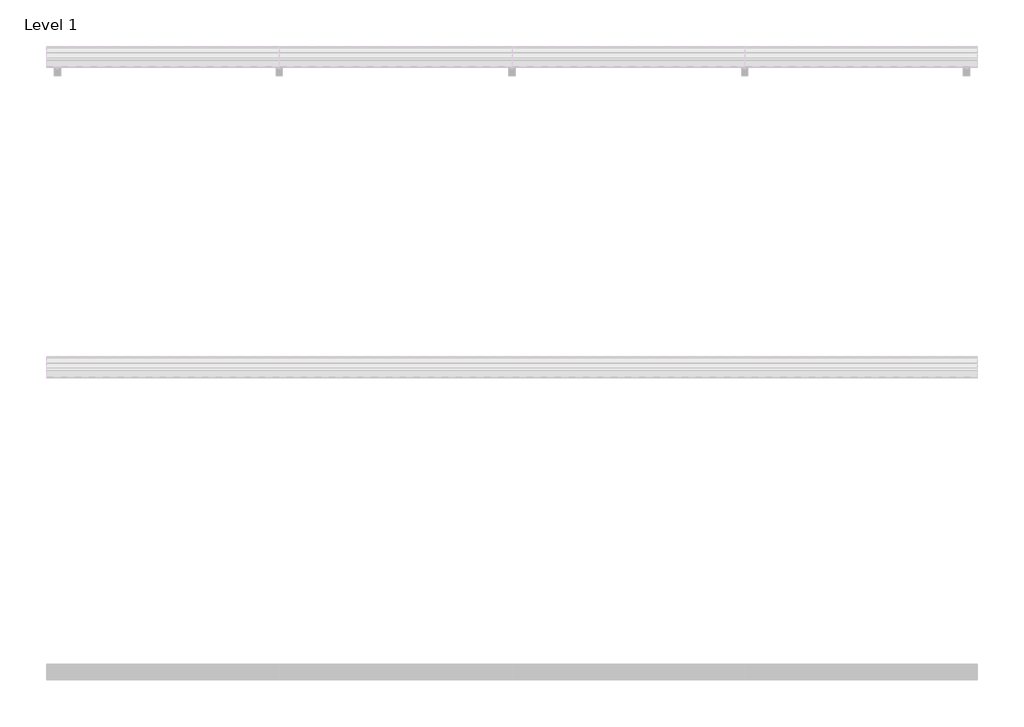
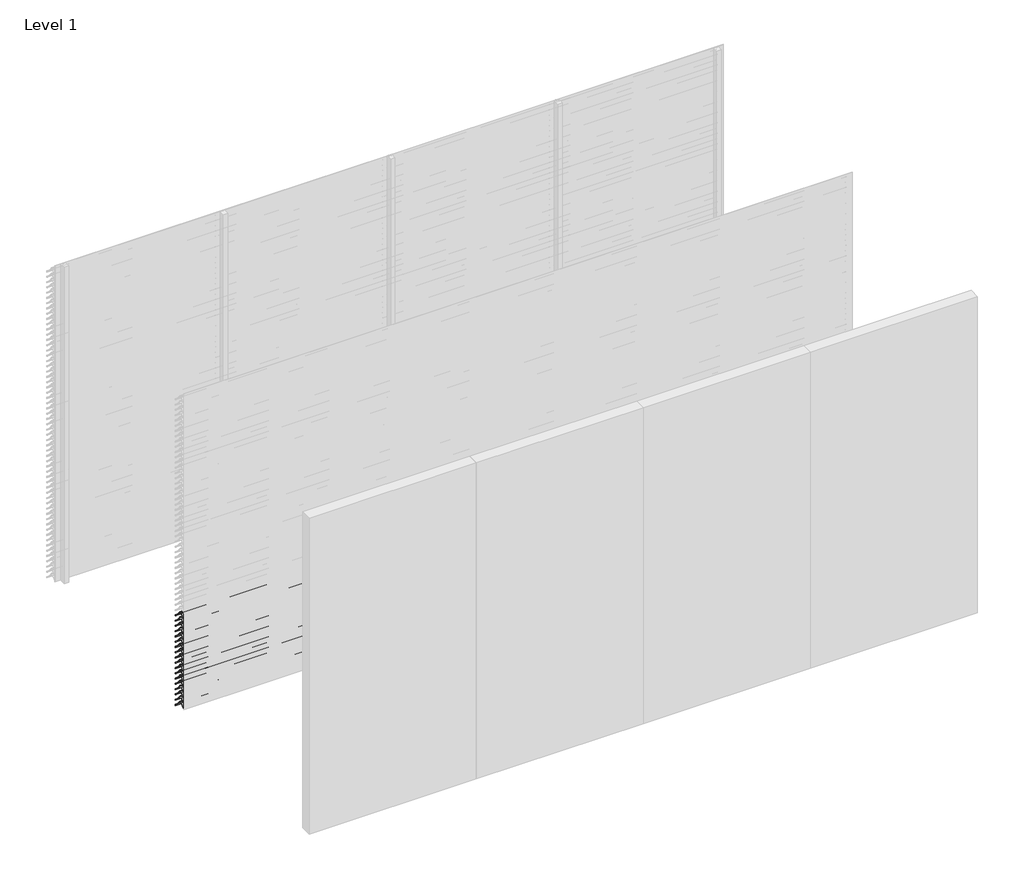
# One storey, part 74 of 173: 18 proxies.
"""IFC4 building model written with IfcOpenShell, lengths in millimetres."""

from ifc_helpers import new_model, si_unit, point, frame, frame_2d, origin, place, context, project, spatial, polyline, circle_curve, trimmed, segment, composite_curve, outline, extrude, element, save

model = new_model("IFC4")

# Units and contexts
model_context = context("Model", 3, world=origin())
ifc_project = project(units=[si_unit("LENGTHUNIT", "METRE", prefix="MILLI")], contexts=[model_context])

# Site, building, storey
site = spatial("IfcSite", under=ifc_project)
building = spatial("IfcBuilding", under=site)
storey = spatial("IfcBuildingStorey", under=building, Name="Level 1", Elevation=0.0)

# Proxies
placement = place(None, origin())
element("IfcBuildingElementProxy", 1, Name="Wall Sweeps", at=placement, inside=storey, context=model_context, shape_type="SweptSolid", body=[
    extrude(outline(composite_curve([segment(polyline([(-31998.0, 859.1474905), (-31998.0, 861.6227417)]), True, "CONTINUOUS"), segment(trimmed(circle_curve(frame_2d((-31951.2682172, 816.2200208)), 65.1557103), [point((-31998.0, 861.6227417))], [point((-31954.4014323, 881.3003524))], False, "CARTESIAN"), True, "CONTINUOUS"), segment(polyline([(-31954.4014323, 881.3003524), (-31934.8315836, 881.3003524)]), True, "CONTINUOUS"), segment(trimmed(circle_curve(frame_2d((-31732.7329489, 1028.5533172)), 250.0545817), [point((-31934.8315836, 881.3003524))], [point((-31941.4452143, 890.8344583))], False, "CARTESIAN"), True, "CONTINUOUS"), segment(trimmed(circle_curve(frame_2d((-31953.2981792, 885.1737835)), 13.1352966), [point((-31941.4452143, 890.8344583))], [point((-31953.8171475, 898.298824))], True, "CARTESIAN"), True, "CONTINUOUS"), segment(polyline([(-31953.8171475, 898.298824), (-31953.8171475, 900.0)]), True, "CONTINUOUS"), segment(trimmed(circle_curve(frame_2d((-31953.2981792, 885.1737835)), 14.8352966), [point((-31953.8171475, 900.0))], [point((-31939.9637661, 891.6760487))], False, "CARTESIAN"), True, "CONTINUOUS"), segment(trimmed(circle_curve(frame_2d((-31732.7329489, 1028.5533172)), 248.3545817), [point((-31939.9637661, 891.6760487))], [point((-31873.8787895, 824.2059416))], True, "CARTESIAN"), True, "CONTINUOUS"), segment(trimmed(circle_curve(frame_2d((-31883.8147537, 811.6649442)), 16.0), [point((-31873.8787895, 824.2059416))], [point((-31867.8648347, 810.4))], False, "CARTESIAN"), True, "CONTINUOUS"), segment(polyline([(-31867.8648347, 810.4), (-31869.6712069, 810.4)]), True, "CONTINUOUS"), segment(trimmed(circle_curve(frame_2d((-31883.8147537, 811.6649442)), 14.2), [point((-31869.6712069, 810.4))], [point((-31874.9518628, 822.7594998))], True, "CARTESIAN"), True, "CONTINUOUS"), segment(trimmed(circle_curve(frame_2d((-31732.7329489, 1028.5533172)), 250.1545817), [point((-31874.9518628, 822.7594998))], [point((-31933.7064024, 879.6003524))], False, "CARTESIAN"), True, "CONTINUOUS"), segment(polyline([(-31933.7064024, 879.6003524), (-31954.3602632, 879.6003524)]), True, "CONTINUOUS"), segment(trimmed(circle_curve(frame_2d((-31951.2682172, 816.2200208)), 63.4557103), [point((-31954.3602632, 879.6003524))], [point((-31998.0, 859.1474905))], True, "CARTESIAN"), True, "CONTINUOUS")], self_intersect=False)), frame((0.0, 0.0, 0.0), z_axis=(1.0, 0.0, 0.0), x_axis=(0.0, 1.0, 0.0)), (0.0, 0.0, 1.0), 6000.0),
])
element("IfcBuildingElementProxy", 2, Name="Wall Sweeps", at=placement, inside=storey, context=model_context, shape_type="SweptSolid", body=[
    extrude(outline(composite_curve([segment(polyline([(-31998.0, 809.1474905), (-31998.0, 811.6227417)]), True, "CONTINUOUS"), segment(trimmed(circle_curve(frame_2d((-31951.2682172, 766.2200208)), 65.1557103), [point((-31998.0, 811.6227417))], [point((-31954.4014323, 831.3003524))], False, "CARTESIAN"), True, "CONTINUOUS"), segment(polyline([(-31954.4014323, 831.3003524), (-31934.8315836, 831.3003524)]), True, "CONTINUOUS"), segment(trimmed(circle_curve(frame_2d((-31732.7329489, 978.5533172)), 250.0545817), [point((-31934.8315836, 831.3003524))], [point((-31941.4452143, 840.8344583))], False, "CARTESIAN"), True, "CONTINUOUS"), segment(trimmed(circle_curve(frame_2d((-31953.2981792, 835.1737835)), 13.1352966), [point((-31941.4452143, 840.8344583))], [point((-31953.8171475, 848.298824))], True, "CARTESIAN"), True, "CONTINUOUS"), segment(polyline([(-31953.8171475, 848.298824), (-31953.8171475, 850.0)]), True, "CONTINUOUS"), segment(trimmed(circle_curve(frame_2d((-31953.2981792, 835.1737835)), 14.8352966), [point((-31953.8171475, 850.0))], [point((-31939.9637661, 841.6760487))], False, "CARTESIAN"), True, "CONTINUOUS"), segment(trimmed(circle_curve(frame_2d((-31732.7329489, 978.5533172)), 248.3545817), [point((-31939.9637661, 841.6760487))], [point((-31873.8787895, 774.2059416))], True, "CARTESIAN"), True, "CONTINUOUS"), segment(trimmed(circle_curve(frame_2d((-31883.8147537, 761.6649442)), 16.0), [point((-31873.8787895, 774.2059416))], [point((-31867.8648347, 760.4))], False, "CARTESIAN"), True, "CONTINUOUS"), segment(polyline([(-31867.8648347, 760.4), (-31869.6712069, 760.4)]), True, "CONTINUOUS"), segment(trimmed(circle_curve(frame_2d((-31883.8147537, 761.6649442)), 14.2), [point((-31869.6712069, 760.4))], [point((-31874.9518628, 772.7594998))], True, "CARTESIAN"), True, "CONTINUOUS"), segment(trimmed(circle_curve(frame_2d((-31732.7329489, 978.5533172)), 250.1545817), [point((-31874.9518628, 772.7594998))], [point((-31933.7064024, 829.6003524))], False, "CARTESIAN"), True, "CONTINUOUS"), segment(polyline([(-31933.7064024, 829.6003524), (-31954.3602632, 829.6003524)]), True, "CONTINUOUS"), segment(trimmed(circle_curve(frame_2d((-31951.2682172, 766.2200208)), 63.4557103), [point((-31954.3602632, 829.6003524))], [point((-31998.0, 809.1474905))], True, "CARTESIAN"), True, "CONTINUOUS")], self_intersect=False)), frame((0.0, 0.0, 0.0), z_axis=(1.0, 0.0, 0.0), x_axis=(0.0, 1.0, 0.0)), (0.0, 0.0, 1.0), 6000.0),
])
element("IfcBuildingElementProxy", 3, Name="Wall Sweeps", at=placement, inside=storey, context=model_context, shape_type="SweptSolid", body=[
    extrude(outline(composite_curve([segment(polyline([(-31998.0, 759.1474905), (-31998.0, 761.6227417)]), True, "CONTINUOUS"), segment(trimmed(circle_curve(frame_2d((-31951.2682172, 716.2200208)), 65.1557103), [point((-31998.0, 761.6227417))], [point((-31954.4014323, 781.3003524))], False, "CARTESIAN"), True, "CONTINUOUS"), segment(polyline([(-31954.4014323, 781.3003524), (-31934.8315836, 781.3003524)]), True, "CONTINUOUS"), segment(trimmed(circle_curve(frame_2d((-31732.7329489, 928.5533172)), 250.0545817), [point((-31934.8315836, 781.3003524))], [point((-31941.4452143, 790.8344583))], False, "CARTESIAN"), True, "CONTINUOUS"), segment(trimmed(circle_curve(frame_2d((-31953.2981792, 785.1737835)), 13.1352966), [point((-31941.4452143, 790.8344583))], [point((-31953.8171475, 798.298824))], True, "CARTESIAN"), True, "CONTINUOUS"), segment(polyline([(-31953.8171475, 798.298824), (-31953.8171475, 800.0)]), True, "CONTINUOUS"), segment(trimmed(circle_curve(frame_2d((-31953.2981792, 785.1737835)), 14.8352966), [point((-31953.8171475, 800.0))], [point((-31939.9637661, 791.6760487))], False, "CARTESIAN"), True, "CONTINUOUS"), segment(trimmed(circle_curve(frame_2d((-31732.7329489, 928.5533172)), 248.3545817), [point((-31939.9637661, 791.6760487))], [point((-31873.8787895, 724.2059416))], True, "CARTESIAN"), True, "CONTINUOUS"), segment(trimmed(circle_curve(frame_2d((-31883.8147537, 711.6649442)), 16.0), [point((-31873.8787895, 724.2059416))], [point((-31867.8648347, 710.4))], False, "CARTESIAN"), True, "CONTINUOUS"), segment(polyline([(-31867.8648347, 710.4), (-31869.6712069, 710.4)]), True, "CONTINUOUS"), segment(trimmed(circle_curve(frame_2d((-31883.8147537, 711.6649442)), 14.2), [point((-31869.6712069, 710.4))], [point((-31874.9518628, 722.7594998))], True, "CARTESIAN"), True, "CONTINUOUS"), segment(trimmed(circle_curve(frame_2d((-31732.7329489, 928.5533172)), 250.1545817), [point((-31874.9518628, 722.7594998))], [point((-31933.7064024, 779.6003524))], False, "CARTESIAN"), True, "CONTINUOUS"), segment(polyline([(-31933.7064024, 779.6003524), (-31954.3602632, 779.6003524)]), True, "CONTINUOUS"), segment(trimmed(circle_curve(frame_2d((-31951.2682172, 716.2200208)), 63.4557103), [point((-31954.3602632, 779.6003524))], [point((-31998.0, 759.1474905))], True, "CARTESIAN"), True, "CONTINUOUS")], self_intersect=False)), frame((0.0, 0.0, 0.0), z_axis=(1.0, 0.0, 0.0), x_axis=(0.0, 1.0, 0.0)), (0.0, 0.0, 1.0), 6000.0),
])
element("IfcBuildingElementProxy", 4, Name="Wall Sweeps", at=placement, inside=storey, context=model_context, shape_type="SweptSolid", body=[
    extrude(outline(composite_curve([segment(polyline([(-31998.0, 709.1474905), (-31998.0, 711.6227417)]), True, "CONTINUOUS"), segment(trimmed(circle_curve(frame_2d((-31951.2682172, 666.2200208)), 65.1557103), [point((-31998.0, 711.6227417))], [point((-31954.4014323, 731.3003524))], False, "CARTESIAN"), True, "CONTINUOUS"), segment(polyline([(-31954.4014323, 731.3003524), (-31934.8315836, 731.3003524)]), True, "CONTINUOUS"), segment(trimmed(circle_curve(frame_2d((-31732.7329489, 878.5533172)), 250.0545817), [point((-31934.8315836, 731.3003524))], [point((-31941.4452143, 740.8344583))], False, "CARTESIAN"), True, "CONTINUOUS"), segment(trimmed(circle_curve(frame_2d((-31953.2981792, 735.1737835)), 13.1352966), [point((-31941.4452143, 740.8344583))], [point((-31953.8171475, 748.298824))], True, "CARTESIAN"), True, "CONTINUOUS"), segment(polyline([(-31953.8171475, 748.298824), (-31953.8171475, 750.0)]), True, "CONTINUOUS"), segment(trimmed(circle_curve(frame_2d((-31953.2981792, 735.1737835)), 14.8352966), [point((-31953.8171475, 750.0))], [point((-31939.9637661, 741.6760487))], False, "CARTESIAN"), True, "CONTINUOUS"), segment(trimmed(circle_curve(frame_2d((-31732.7329489, 878.5533172)), 248.3545817), [point((-31939.9637661, 741.6760487))], [point((-31873.8787895, 674.2059416))], True, "CARTESIAN"), True, "CONTINUOUS"), segment(trimmed(circle_curve(frame_2d((-31883.8147537, 661.6649442)), 16.0), [point((-31873.8787895, 674.2059416))], [point((-31867.8648347, 660.4))], False, "CARTESIAN"), True, "CONTINUOUS"), segment(polyline([(-31867.8648347, 660.4), (-31869.6712069, 660.4)]), True, "CONTINUOUS"), segment(trimmed(circle_curve(frame_2d((-31883.8147537, 661.6649442)), 14.2), [point((-31869.6712069, 660.4))], [point((-31874.9518628, 672.7594998))], True, "CARTESIAN"), True, "CONTINUOUS"), segment(trimmed(circle_curve(frame_2d((-31732.7329489, 878.5533172)), 250.1545817), [point((-31874.9518628, 672.7594998))], [point((-31933.7064024, 729.6003524))], False, "CARTESIAN"), True, "CONTINUOUS"), segment(polyline([(-31933.7064024, 729.6003524), (-31954.3602632, 729.6003524)]), True, "CONTINUOUS"), segment(trimmed(circle_curve(frame_2d((-31951.2682172, 666.2200208)), 63.4557103), [point((-31954.3602632, 729.6003524))], [point((-31998.0, 709.1474905))], True, "CARTESIAN"), True, "CONTINUOUS")], self_intersect=False)), frame((0.0, 0.0, 0.0), z_axis=(1.0, 0.0, 0.0), x_axis=(0.0, 1.0, 0.0)), (0.0, 0.0, 1.0), 6000.0),
])
element("IfcBuildingElementProxy", 5, Name="Wall Sweeps", at=placement, inside=storey, context=model_context, shape_type="SweptSolid", body=[
    extrude(outline(composite_curve([segment(polyline([(-31998.0, 659.1474905), (-31998.0, 661.6227417)]), True, "CONTINUOUS"), segment(trimmed(circle_curve(frame_2d((-31951.2682172, 616.2200208)), 65.1557103), [point((-31998.0, 661.6227417))], [point((-31954.4014323, 681.3003524))], False, "CARTESIAN"), True, "CONTINUOUS"), segment(polyline([(-31954.4014323, 681.3003524), (-31934.8315836, 681.3003524)]), True, "CONTINUOUS"), segment(trimmed(circle_curve(frame_2d((-31732.7329489, 828.5533172)), 250.0545817), [point((-31934.8315836, 681.3003524))], [point((-31941.4452143, 690.8344583))], False, "CARTESIAN"), True, "CONTINUOUS"), segment(trimmed(circle_curve(frame_2d((-31953.2981792, 685.1737835)), 13.1352966), [point((-31941.4452143, 690.8344583))], [point((-31953.8171475, 698.298824))], True, "CARTESIAN"), True, "CONTINUOUS"), segment(polyline([(-31953.8171475, 698.298824), (-31953.8171475, 700.0)]), True, "CONTINUOUS"), segment(trimmed(circle_curve(frame_2d((-31953.2981792, 685.1737835)), 14.8352966), [point((-31953.8171475, 700.0))], [point((-31939.9637661, 691.6760487))], False, "CARTESIAN"), True, "CONTINUOUS"), segment(trimmed(circle_curve(frame_2d((-31732.7329489, 828.5533172)), 248.3545817), [point((-31939.9637661, 691.6760487))], [point((-31873.8787895, 624.2059416))], True, "CARTESIAN"), True, "CONTINUOUS"), segment(trimmed(circle_curve(frame_2d((-31883.8147537, 611.6649442)), 16.0), [point((-31873.8787895, 624.2059416))], [point((-31867.8648347, 610.4))], False, "CARTESIAN"), True, "CONTINUOUS"), segment(polyline([(-31867.8648347, 610.4), (-31869.6712069, 610.4)]), True, "CONTINUOUS"), segment(trimmed(circle_curve(frame_2d((-31883.8147537, 611.6649442)), 14.2), [point((-31869.6712069, 610.4))], [point((-31874.9518628, 622.7594998))], True, "CARTESIAN"), True, "CONTINUOUS"), segment(trimmed(circle_curve(frame_2d((-31732.7329489, 828.5533172)), 250.1545817), [point((-31874.9518628, 622.7594998))], [point((-31933.7064024, 679.6003524))], False, "CARTESIAN"), True, "CONTINUOUS"), segment(polyline([(-31933.7064024, 679.6003524), (-31954.3602632, 679.6003524)]), True, "CONTINUOUS"), segment(trimmed(circle_curve(frame_2d((-31951.2682172, 616.2200208)), 63.4557103), [point((-31954.3602632, 679.6003524))], [point((-31998.0, 659.1474905))], True, "CARTESIAN"), True, "CONTINUOUS")], self_intersect=False)), frame((0.0, 0.0, 0.0), z_axis=(1.0, 0.0, 0.0), x_axis=(0.0, 1.0, 0.0)), (0.0, 0.0, 1.0), 6000.0),
])
element("IfcBuildingElementProxy", 6, Name="Wall Sweeps", at=placement, inside=storey, context=model_context, shape_type="SweptSolid", body=[
    extrude(outline(composite_curve([segment(polyline([(-31998.0, 609.1474905), (-31998.0, 611.6227417)]), True, "CONTINUOUS"), segment(trimmed(circle_curve(frame_2d((-31951.2682172, 566.2200208)), 65.1557103), [point((-31998.0, 611.6227417))], [point((-31954.4014323, 631.3003524))], False, "CARTESIAN"), True, "CONTINUOUS"), segment(polyline([(-31954.4014323, 631.3003524), (-31934.8315836, 631.3003524)]), True, "CONTINUOUS"), segment(trimmed(circle_curve(frame_2d((-31732.7329489, 778.5533172)), 250.0545817), [point((-31934.8315836, 631.3003524))], [point((-31941.4452143, 640.8344583))], False, "CARTESIAN"), True, "CONTINUOUS"), segment(trimmed(circle_curve(frame_2d((-31953.2981792, 635.1737835)), 13.1352966), [point((-31941.4452143, 640.8344583))], [point((-31953.8171475, 648.298824))], True, "CARTESIAN"), True, "CONTINUOUS"), segment(polyline([(-31953.8171475, 648.298824), (-31953.8171475, 650.0)]), True, "CONTINUOUS"), segment(trimmed(circle_curve(frame_2d((-31953.2981792, 635.1737835)), 14.8352966), [point((-31953.8171475, 650.0))], [point((-31939.9637661, 641.6760487))], False, "CARTESIAN"), True, "CONTINUOUS"), segment(trimmed(circle_curve(frame_2d((-31732.7329489, 778.5533172)), 248.3545817), [point((-31939.9637661, 641.6760487))], [point((-31873.8787895, 574.2059416))], True, "CARTESIAN"), True, "CONTINUOUS"), segment(trimmed(circle_curve(frame_2d((-31883.8147537, 561.6649442)), 16.0), [point((-31873.8787895, 574.2059416))], [point((-31867.8648347, 560.4))], False, "CARTESIAN"), True, "CONTINUOUS"), segment(polyline([(-31867.8648347, 560.4), (-31869.6712069, 560.4)]), True, "CONTINUOUS"), segment(trimmed(circle_curve(frame_2d((-31883.8147537, 561.6649442)), 14.2), [point((-31869.6712069, 560.4))], [point((-31874.9518628, 572.7594998))], True, "CARTESIAN"), True, "CONTINUOUS"), segment(trimmed(circle_curve(frame_2d((-31732.7329489, 778.5533172)), 250.1545817), [point((-31874.9518628, 572.7594998))], [point((-31933.7064024, 629.6003524))], False, "CARTESIAN"), True, "CONTINUOUS"), segment(polyline([(-31933.7064024, 629.6003524), (-31954.3602632, 629.6003524)]), True, "CONTINUOUS"), segment(trimmed(circle_curve(frame_2d((-31951.2682172, 566.2200208)), 63.4557103), [point((-31954.3602632, 629.6003524))], [point((-31998.0, 609.1474905))], True, "CARTESIAN"), True, "CONTINUOUS")], self_intersect=False)), frame((0.0, 0.0, 0.0), z_axis=(1.0, 0.0, 0.0), x_axis=(0.0, 1.0, 0.0)), (0.0, 0.0, 1.0), 6000.0),
])
element("IfcBuildingElementProxy", 7, Name="Wall Sweeps", at=placement, inside=storey, context=model_context, shape_type="SweptSolid", body=[
    extrude(outline(composite_curve([segment(polyline([(-31998.0, 559.1474905), (-31998.0, 561.6227417)]), True, "CONTINUOUS"), segment(trimmed(circle_curve(frame_2d((-31951.2682172, 516.2200208)), 65.1557103), [point((-31998.0, 561.6227417))], [point((-31954.4014323, 581.3003524))], False, "CARTESIAN"), True, "CONTINUOUS"), segment(polyline([(-31954.4014323, 581.3003524), (-31934.8315836, 581.3003524)]), True, "CONTINUOUS"), segment(trimmed(circle_curve(frame_2d((-31732.7329489, 728.5533172)), 250.0545817), [point((-31934.8315836, 581.3003524))], [point((-31941.4452143, 590.8344583))], False, "CARTESIAN"), True, "CONTINUOUS"), segment(trimmed(circle_curve(frame_2d((-31953.2981792, 585.1737835)), 13.1352966), [point((-31941.4452143, 590.8344583))], [point((-31953.8171475, 598.298824))], True, "CARTESIAN"), True, "CONTINUOUS"), segment(polyline([(-31953.8171475, 598.298824), (-31953.8171475, 600.0)]), True, "CONTINUOUS"), segment(trimmed(circle_curve(frame_2d((-31953.2981792, 585.1737835)), 14.8352966), [point((-31953.8171475, 600.0))], [point((-31939.9637661, 591.6760487))], False, "CARTESIAN"), True, "CONTINUOUS"), segment(trimmed(circle_curve(frame_2d((-31732.7329489, 728.5533172)), 248.3545817), [point((-31939.9637661, 591.6760487))], [point((-31873.8787895, 524.2059416))], True, "CARTESIAN"), True, "CONTINUOUS"), segment(trimmed(circle_curve(frame_2d((-31883.8147537, 511.6649442)), 16.0), [point((-31873.8787895, 524.2059416))], [point((-31867.8648347, 510.4))], False, "CARTESIAN"), True, "CONTINUOUS"), segment(polyline([(-31867.8648347, 510.4), (-31869.6712069, 510.4)]), True, "CONTINUOUS"), segment(trimmed(circle_curve(frame_2d((-31883.8147537, 511.6649442)), 14.2), [point((-31869.6712069, 510.4))], [point((-31874.9518628, 522.7594998))], True, "CARTESIAN"), True, "CONTINUOUS"), segment(trimmed(circle_curve(frame_2d((-31732.7329489, 728.5533172)), 250.1545817), [point((-31874.9518628, 522.7594998))], [point((-31933.7064024, 579.6003524))], False, "CARTESIAN"), True, "CONTINUOUS"), segment(polyline([(-31933.7064024, 579.6003524), (-31954.3602632, 579.6003524)]), True, "CONTINUOUS"), segment(trimmed(circle_curve(frame_2d((-31951.2682172, 516.2200208)), 63.4557103), [point((-31954.3602632, 579.6003524))], [point((-31998.0, 559.1474905))], True, "CARTESIAN"), True, "CONTINUOUS")], self_intersect=False)), frame((0.0, 0.0, 0.0), z_axis=(1.0, 0.0, 0.0), x_axis=(0.0, 1.0, 0.0)), (0.0, 0.0, 1.0), 6000.0),
])
element("IfcBuildingElementProxy", 8, Name="Wall Sweeps", at=placement, inside=storey, context=model_context, shape_type="SweptSolid", body=[
    extrude(outline(composite_curve([segment(polyline([(-31998.0, 509.1474905), (-31998.0, 511.6227417)]), True, "CONTINUOUS"), segment(trimmed(circle_curve(frame_2d((-31951.2682172, 466.2200208)), 65.1557103), [point((-31998.0, 511.6227417))], [point((-31954.4014323, 531.3003524))], False, "CARTESIAN"), True, "CONTINUOUS"), segment(polyline([(-31954.4014323, 531.3003524), (-31934.8315836, 531.3003524)]), True, "CONTINUOUS"), segment(trimmed(circle_curve(frame_2d((-31732.7329489, 678.5533172)), 250.0545817), [point((-31934.8315836, 531.3003524))], [point((-31941.4452143, 540.8344583))], False, "CARTESIAN"), True, "CONTINUOUS"), segment(trimmed(circle_curve(frame_2d((-31953.2981792, 535.1737835)), 13.1352966), [point((-31941.4452143, 540.8344583))], [point((-31953.8171475, 548.298824))], True, "CARTESIAN"), True, "CONTINUOUS"), segment(polyline([(-31953.8171475, 548.298824), (-31953.8171475, 550.0)]), True, "CONTINUOUS"), segment(trimmed(circle_curve(frame_2d((-31953.2981792, 535.1737835)), 14.8352966), [point((-31953.8171475, 550.0))], [point((-31939.9637661, 541.6760487))], False, "CARTESIAN"), True, "CONTINUOUS"), segment(trimmed(circle_curve(frame_2d((-31732.7329489, 678.5533172)), 248.3545817), [point((-31939.9637661, 541.6760487))], [point((-31873.8787895, 474.2059416))], True, "CARTESIAN"), True, "CONTINUOUS"), segment(trimmed(circle_curve(frame_2d((-31883.8147537, 461.6649442)), 16.0), [point((-31873.8787895, 474.2059416))], [point((-31867.8648347, 460.4))], False, "CARTESIAN"), True, "CONTINUOUS"), segment(polyline([(-31867.8648347, 460.4), (-31869.6712069, 460.4)]), True, "CONTINUOUS"), segment(trimmed(circle_curve(frame_2d((-31883.8147537, 461.6649442)), 14.2), [point((-31869.6712069, 460.4))], [point((-31874.9518628, 472.7594998))], True, "CARTESIAN"), True, "CONTINUOUS"), segment(trimmed(circle_curve(frame_2d((-31732.7329489, 678.5533172)), 250.1545817), [point((-31874.9518628, 472.7594998))], [point((-31933.7064024, 529.6003524))], False, "CARTESIAN"), True, "CONTINUOUS"), segment(polyline([(-31933.7064024, 529.6003524), (-31954.3602632, 529.6003524)]), True, "CONTINUOUS"), segment(trimmed(circle_curve(frame_2d((-31951.2682172, 466.2200208)), 63.4557103), [point((-31954.3602632, 529.6003524))], [point((-31998.0, 509.1474905))], True, "CARTESIAN"), True, "CONTINUOUS")], self_intersect=False)), frame((0.0, 0.0, 0.0), z_axis=(1.0, 0.0, 0.0), x_axis=(0.0, 1.0, 0.0)), (0.0, 0.0, 1.0), 6000.0),
])
element("IfcBuildingElementProxy", 9, Name="Wall Sweeps", at=placement, inside=storey, context=model_context, shape_type="SweptSolid", body=[
    extrude(outline(composite_curve([segment(polyline([(-31998.0, 459.1474905), (-31998.0, 461.6227417)]), True, "CONTINUOUS"), segment(trimmed(circle_curve(frame_2d((-31951.2682172, 416.2200208)), 65.1557103), [point((-31998.0, 461.6227417))], [point((-31954.4014323, 481.3003524))], False, "CARTESIAN"), True, "CONTINUOUS"), segment(polyline([(-31954.4014323, 481.3003524), (-31934.8315836, 481.3003524)]), True, "CONTINUOUS"), segment(trimmed(circle_curve(frame_2d((-31732.7329489, 628.5533172)), 250.0545817), [point((-31934.8315836, 481.3003524))], [point((-31941.4452143, 490.8344583))], False, "CARTESIAN"), True, "CONTINUOUS"), segment(trimmed(circle_curve(frame_2d((-31953.2981792, 485.1737835)), 13.1352966), [point((-31941.4452143, 490.8344583))], [point((-31953.8171475, 498.298824))], True, "CARTESIAN"), True, "CONTINUOUS"), segment(polyline([(-31953.8171475, 498.298824), (-31953.8171475, 500.0)]), True, "CONTINUOUS"), segment(trimmed(circle_curve(frame_2d((-31953.2981792, 485.1737835)), 14.8352966), [point((-31953.8171475, 500.0))], [point((-31939.9637661, 491.6760487))], False, "CARTESIAN"), True, "CONTINUOUS"), segment(trimmed(circle_curve(frame_2d((-31732.7329489, 628.5533172)), 248.3545817), [point((-31939.9637661, 491.6760487))], [point((-31873.8787895, 424.2059416))], True, "CARTESIAN"), True, "CONTINUOUS"), segment(trimmed(circle_curve(frame_2d((-31883.8147537, 411.6649442)), 16.0), [point((-31873.8787895, 424.2059416))], [point((-31867.8648347, 410.4))], False, "CARTESIAN"), True, "CONTINUOUS"), segment(polyline([(-31867.8648347, 410.4), (-31869.6712069, 410.4)]), True, "CONTINUOUS"), segment(trimmed(circle_curve(frame_2d((-31883.8147537, 411.6649442)), 14.2), [point((-31869.6712069, 410.4))], [point((-31874.9518628, 422.7594998))], True, "CARTESIAN"), True, "CONTINUOUS"), segment(trimmed(circle_curve(frame_2d((-31732.7329489, 628.5533172)), 250.1545817), [point((-31874.9518628, 422.7594998))], [point((-31933.7064024, 479.6003524))], False, "CARTESIAN"), True, "CONTINUOUS"), segment(polyline([(-31933.7064024, 479.6003524), (-31954.3602632, 479.6003524)]), True, "CONTINUOUS"), segment(trimmed(circle_curve(frame_2d((-31951.2682172, 416.2200208)), 63.4557103), [point((-31954.3602632, 479.6003524))], [point((-31998.0, 459.1474905))], True, "CARTESIAN"), True, "CONTINUOUS")], self_intersect=False)), frame((0.0, 0.0, 0.0), z_axis=(1.0, 0.0, 0.0), x_axis=(0.0, 1.0, 0.0)), (0.0, 0.0, 1.0), 6000.0),
])
element("IfcBuildingElementProxy", 10, Name="Wall Sweeps", at=placement, inside=storey, context=model_context, shape_type="SweptSolid", body=[
    extrude(outline(composite_curve([segment(polyline([(-31998.0, 409.1474905), (-31998.0, 411.6227417)]), True, "CONTINUOUS"), segment(trimmed(circle_curve(frame_2d((-31951.2682172, 366.2200208)), 65.1557103), [point((-31998.0, 411.6227417))], [point((-31954.4014323, 431.3003524))], False, "CARTESIAN"), True, "CONTINUOUS"), segment(polyline([(-31954.4014323, 431.3003524), (-31934.8315836, 431.3003524)]), True, "CONTINUOUS"), segment(trimmed(circle_curve(frame_2d((-31732.7329489, 578.5533172)), 250.0545817), [point((-31934.8315836, 431.3003524))], [point((-31941.4452143, 440.8344583))], False, "CARTESIAN"), True, "CONTINUOUS"), segment(trimmed(circle_curve(frame_2d((-31953.2981792, 435.1737835)), 13.1352966), [point((-31941.4452143, 440.8344583))], [point((-31953.8171475, 448.298824))], True, "CARTESIAN"), True, "CONTINUOUS"), segment(polyline([(-31953.8171475, 448.298824), (-31953.8171475, 450.0)]), True, "CONTINUOUS"), segment(trimmed(circle_curve(frame_2d((-31953.2981792, 435.1737835)), 14.8352966), [point((-31953.8171475, 450.0))], [point((-31939.9637661, 441.6760487))], False, "CARTESIAN"), True, "CONTINUOUS"), segment(trimmed(circle_curve(frame_2d((-31732.7329489, 578.5533172)), 248.3545817), [point((-31939.9637661, 441.6760487))], [point((-31873.8787895, 374.2059416))], True, "CARTESIAN"), True, "CONTINUOUS"), segment(trimmed(circle_curve(frame_2d((-31883.8147537, 361.6649442)), 16.0), [point((-31873.8787895, 374.2059416))], [point((-31867.8648347, 360.4))], False, "CARTESIAN"), True, "CONTINUOUS"), segment(polyline([(-31867.8648347, 360.4), (-31869.6712069, 360.4)]), True, "CONTINUOUS"), segment(trimmed(circle_curve(frame_2d((-31883.8147537, 361.6649442)), 14.2), [point((-31869.6712069, 360.4))], [point((-31874.9518628, 372.7594998))], True, "CARTESIAN"), True, "CONTINUOUS"), segment(trimmed(circle_curve(frame_2d((-31732.7329489, 578.5533172)), 250.1545817), [point((-31874.9518628, 372.7594998))], [point((-31933.7064024, 429.6003524))], False, "CARTESIAN"), True, "CONTINUOUS"), segment(polyline([(-31933.7064024, 429.6003524), (-31954.3602632, 429.6003524)]), True, "CONTINUOUS"), segment(trimmed(circle_curve(frame_2d((-31951.2682172, 366.2200208)), 63.4557103), [point((-31954.3602632, 429.6003524))], [point((-31998.0, 409.1474905))], True, "CARTESIAN"), True, "CONTINUOUS")], self_intersect=False)), frame((0.0, 0.0, 0.0), z_axis=(1.0, 0.0, 0.0), x_axis=(0.0, 1.0, 0.0)), (0.0, 0.0, 1.0), 6000.0),
])
element("IfcBuildingElementProxy", 11, Name="Wall Sweeps", at=placement, inside=storey, context=model_context, shape_type="SweptSolid", body=[
    extrude(outline(composite_curve([segment(polyline([(-31998.0, 359.1474905), (-31998.0, 361.6227417)]), True, "CONTINUOUS"), segment(trimmed(circle_curve(frame_2d((-31951.2682172, 316.2200208)), 65.1557103), [point((-31998.0, 361.6227417))], [point((-31954.4014323, 381.3003524))], False, "CARTESIAN"), True, "CONTINUOUS"), segment(polyline([(-31954.4014323, 381.3003524), (-31934.8315836, 381.3003524)]), True, "CONTINUOUS"), segment(trimmed(circle_curve(frame_2d((-31732.7329489, 528.5533172)), 250.0545817), [point((-31934.8315836, 381.3003524))], [point((-31941.4452143, 390.8344583))], False, "CARTESIAN"), True, "CONTINUOUS"), segment(trimmed(circle_curve(frame_2d((-31953.2981792, 385.1737835)), 13.1352966), [point((-31941.4452143, 390.8344583))], [point((-31953.8171475, 398.298824))], True, "CARTESIAN"), True, "CONTINUOUS"), segment(polyline([(-31953.8171475, 398.298824), (-31953.8171475, 400.0)]), True, "CONTINUOUS"), segment(trimmed(circle_curve(frame_2d((-31953.2981792, 385.1737835)), 14.8352966), [point((-31953.8171475, 400.0))], [point((-31939.9637661, 391.6760487))], False, "CARTESIAN"), True, "CONTINUOUS"), segment(trimmed(circle_curve(frame_2d((-31732.7329489, 528.5533172)), 248.3545817), [point((-31939.9637661, 391.6760487))], [point((-31873.8787895, 324.2059416))], True, "CARTESIAN"), True, "CONTINUOUS"), segment(trimmed(circle_curve(frame_2d((-31883.8147537, 311.6649442)), 16.0), [point((-31873.8787895, 324.2059416))], [point((-31867.8648347, 310.4))], False, "CARTESIAN"), True, "CONTINUOUS"), segment(polyline([(-31867.8648347, 310.4), (-31869.6712069, 310.4)]), True, "CONTINUOUS"), segment(trimmed(circle_curve(frame_2d((-31883.8147537, 311.6649442)), 14.2), [point((-31869.6712069, 310.4))], [point((-31874.9518628, 322.7594998))], True, "CARTESIAN"), True, "CONTINUOUS"), segment(trimmed(circle_curve(frame_2d((-31732.7329489, 528.5533172)), 250.1545817), [point((-31874.9518628, 322.7594998))], [point((-31933.7064024, 379.6003524))], False, "CARTESIAN"), True, "CONTINUOUS"), segment(polyline([(-31933.7064024, 379.6003524), (-31954.3602632, 379.6003524)]), True, "CONTINUOUS"), segment(trimmed(circle_curve(frame_2d((-31951.2682172, 316.2200208)), 63.4557103), [point((-31954.3602632, 379.6003524))], [point((-31998.0, 359.1474905))], True, "CARTESIAN"), True, "CONTINUOUS")], self_intersect=False)), frame((0.0, 0.0, 0.0), z_axis=(1.0, 0.0, 0.0), x_axis=(0.0, 1.0, 0.0)), (0.0, 0.0, 1.0), 6000.0),
])
element("IfcBuildingElementProxy", 12, Name="Wall Sweeps", at=placement, inside=storey, context=model_context, shape_type="SweptSolid", body=[
    extrude(outline(composite_curve([segment(polyline([(-31998.0, 309.1474905), (-31998.0, 311.6227417)]), True, "CONTINUOUS"), segment(trimmed(circle_curve(frame_2d((-31951.2682172, 266.2200208)), 65.1557103), [point((-31998.0, 311.6227417))], [point((-31954.4014323, 331.3003524))], False, "CARTESIAN"), True, "CONTINUOUS"), segment(polyline([(-31954.4014323, 331.3003524), (-31934.8315836, 331.3003524)]), True, "CONTINUOUS"), segment(trimmed(circle_curve(frame_2d((-31732.7329489, 478.5533172)), 250.0545817), [point((-31934.8315836, 331.3003524))], [point((-31941.4452143, 340.8344583))], False, "CARTESIAN"), True, "CONTINUOUS"), segment(trimmed(circle_curve(frame_2d((-31953.2981792, 335.1737835)), 13.1352966), [point((-31941.4452143, 340.8344583))], [point((-31953.8171475, 348.298824))], True, "CARTESIAN"), True, "CONTINUOUS"), segment(polyline([(-31953.8171475, 348.298824), (-31953.8171475, 350.0)]), True, "CONTINUOUS"), segment(trimmed(circle_curve(frame_2d((-31953.2981792, 335.1737835)), 14.8352966), [point((-31953.8171475, 350.0))], [point((-31939.9637661, 341.6760487))], False, "CARTESIAN"), True, "CONTINUOUS"), segment(trimmed(circle_curve(frame_2d((-31732.7329489, 478.5533172)), 248.3545817), [point((-31939.9637661, 341.6760487))], [point((-31873.8787895, 274.2059416))], True, "CARTESIAN"), True, "CONTINUOUS"), segment(trimmed(circle_curve(frame_2d((-31883.8147537, 261.6649442)), 16.0), [point((-31873.8787895, 274.2059416))], [point((-31867.8648347, 260.4))], False, "CARTESIAN"), True, "CONTINUOUS"), segment(polyline([(-31867.8648347, 260.4), (-31869.6712069, 260.4)]), True, "CONTINUOUS"), segment(trimmed(circle_curve(frame_2d((-31883.8147537, 261.6649442)), 14.2), [point((-31869.6712069, 260.4))], [point((-31874.9518628, 272.7594998))], True, "CARTESIAN"), True, "CONTINUOUS"), segment(trimmed(circle_curve(frame_2d((-31732.7329489, 478.5533172)), 250.1545817), [point((-31874.9518628, 272.7594998))], [point((-31933.7064024, 329.6003524))], False, "CARTESIAN"), True, "CONTINUOUS"), segment(polyline([(-31933.7064024, 329.6003524), (-31954.3602632, 329.6003524)]), True, "CONTINUOUS"), segment(trimmed(circle_curve(frame_2d((-31951.2682172, 266.2200208)), 63.4557103), [point((-31954.3602632, 329.6003524))], [point((-31998.0, 309.1474905))], True, "CARTESIAN"), True, "CONTINUOUS")], self_intersect=False)), frame((0.0, 0.0, 0.0), z_axis=(1.0, 0.0, 0.0), x_axis=(0.0, 1.0, 0.0)), (0.0, 0.0, 1.0), 6000.0),
])
element("IfcBuildingElementProxy", 13, Name="Wall Sweeps", at=placement, inside=storey, context=model_context, shape_type="SweptSolid", body=[
    extrude(outline(composite_curve([segment(polyline([(-31998.0, 259.1474905), (-31998.0, 261.6227417)]), True, "CONTINUOUS"), segment(trimmed(circle_curve(frame_2d((-31951.2682172, 216.2200208)), 65.1557103), [point((-31998.0, 261.6227417))], [point((-31954.4014323, 281.3003524))], False, "CARTESIAN"), True, "CONTINUOUS"), segment(polyline([(-31954.4014323, 281.3003524), (-31934.8315836, 281.3003524)]), True, "CONTINUOUS"), segment(trimmed(circle_curve(frame_2d((-31732.7329489, 428.5533172)), 250.0545817), [point((-31934.8315836, 281.3003524))], [point((-31941.4452143, 290.8344583))], False, "CARTESIAN"), True, "CONTINUOUS"), segment(trimmed(circle_curve(frame_2d((-31953.2981792, 285.1737835)), 13.1352966), [point((-31941.4452143, 290.8344583))], [point((-31953.8171475, 298.298824))], True, "CARTESIAN"), True, "CONTINUOUS"), segment(polyline([(-31953.8171475, 298.298824), (-31953.8171475, 300.0)]), True, "CONTINUOUS"), segment(trimmed(circle_curve(frame_2d((-31953.2981792, 285.1737835)), 14.8352966), [point((-31953.8171475, 300.0))], [point((-31939.9637661, 291.6760487))], False, "CARTESIAN"), True, "CONTINUOUS"), segment(trimmed(circle_curve(frame_2d((-31732.7329489, 428.5533172)), 248.3545817), [point((-31939.9637661, 291.6760487))], [point((-31873.8787895, 224.2059416))], True, "CARTESIAN"), True, "CONTINUOUS"), segment(trimmed(circle_curve(frame_2d((-31883.8147537, 211.6649442)), 16.0), [point((-31873.8787895, 224.2059416))], [point((-31867.8648347, 210.4))], False, "CARTESIAN"), True, "CONTINUOUS"), segment(polyline([(-31867.8648347, 210.4), (-31869.6712069, 210.4)]), True, "CONTINUOUS"), segment(trimmed(circle_curve(frame_2d((-31883.8147537, 211.6649442)), 14.2), [point((-31869.6712069, 210.4))], [point((-31874.9518628, 222.7594998))], True, "CARTESIAN"), True, "CONTINUOUS"), segment(trimmed(circle_curve(frame_2d((-31732.7329489, 428.5533172)), 250.1545817), [point((-31874.9518628, 222.7594998))], [point((-31933.7064024, 279.6003524))], False, "CARTESIAN"), True, "CONTINUOUS"), segment(polyline([(-31933.7064024, 279.6003524), (-31954.3602632, 279.6003524)]), True, "CONTINUOUS"), segment(trimmed(circle_curve(frame_2d((-31951.2682172, 216.2200208)), 63.4557103), [point((-31954.3602632, 279.6003524))], [point((-31998.0, 259.1474905))], True, "CARTESIAN"), True, "CONTINUOUS")], self_intersect=False)), frame((0.0, 0.0, 0.0), z_axis=(1.0, 0.0, 0.0), x_axis=(0.0, 1.0, 0.0)), (0.0, 0.0, 1.0), 6000.0),
])
element("IfcBuildingElementProxy", 14, Name="Wall Sweeps", at=placement, inside=storey, context=model_context, shape_type="SweptSolid", body=[
    extrude(outline(composite_curve([segment(polyline([(-31998.0, 209.1474905), (-31998.0, 211.6227417)]), True, "CONTINUOUS"), segment(trimmed(circle_curve(frame_2d((-31951.2682172, 166.2200208)), 65.1557103), [point((-31998.0, 211.6227417))], [point((-31954.4014323, 231.3003524))], False, "CARTESIAN"), True, "CONTINUOUS"), segment(polyline([(-31954.4014323, 231.3003524), (-31934.8315836, 231.3003524)]), True, "CONTINUOUS"), segment(trimmed(circle_curve(frame_2d((-31732.7329489, 378.5533172)), 250.0545817), [point((-31934.8315836, 231.3003524))], [point((-31941.4452143, 240.8344583))], False, "CARTESIAN"), True, "CONTINUOUS"), segment(trimmed(circle_curve(frame_2d((-31953.2981792, 235.1737835)), 13.1352966), [point((-31941.4452143, 240.8344583))], [point((-31953.8171475, 248.298824))], True, "CARTESIAN"), True, "CONTINUOUS"), segment(polyline([(-31953.8171475, 248.298824), (-31953.8171475, 250.0)]), True, "CONTINUOUS"), segment(trimmed(circle_curve(frame_2d((-31953.2981792, 235.1737835)), 14.8352966), [point((-31953.8171475, 250.0))], [point((-31939.9637661, 241.6760487))], False, "CARTESIAN"), True, "CONTINUOUS"), segment(trimmed(circle_curve(frame_2d((-31732.7329489, 378.5533172)), 248.3545817), [point((-31939.9637661, 241.6760487))], [point((-31873.8787895, 174.2059416))], True, "CARTESIAN"), True, "CONTINUOUS"), segment(trimmed(circle_curve(frame_2d((-31883.8147537, 161.6649442)), 16.0), [point((-31873.8787895, 174.2059416))], [point((-31867.8648347, 160.4))], False, "CARTESIAN"), True, "CONTINUOUS"), segment(polyline([(-31867.8648347, 160.4), (-31869.6712069, 160.4)]), True, "CONTINUOUS"), segment(trimmed(circle_curve(frame_2d((-31883.8147537, 161.6649442)), 14.2), [point((-31869.6712069, 160.4))], [point((-31874.9518628, 172.7594998))], True, "CARTESIAN"), True, "CONTINUOUS"), segment(trimmed(circle_curve(frame_2d((-31732.7329489, 378.5533172)), 250.1545817), [point((-31874.9518628, 172.7594998))], [point((-31933.7064024, 229.6003524))], False, "CARTESIAN"), True, "CONTINUOUS"), segment(polyline([(-31933.7064024, 229.6003524), (-31954.3602632, 229.6003524)]), True, "CONTINUOUS"), segment(trimmed(circle_curve(frame_2d((-31951.2682172, 166.2200208)), 63.4557103), [point((-31954.3602632, 229.6003524))], [point((-31998.0, 209.1474905))], True, "CARTESIAN"), True, "CONTINUOUS")], self_intersect=False)), frame((0.0, 0.0, 0.0), z_axis=(1.0, 0.0, 0.0), x_axis=(0.0, 1.0, 0.0)), (0.0, 0.0, 1.0), 6000.0),
])
element("IfcBuildingElementProxy", 15, Name="Wall Sweeps", at=placement, inside=storey, context=model_context, shape_type="SweptSolid", body=[
    extrude(outline(composite_curve([segment(polyline([(-31998.0, 159.1474905), (-31998.0, 161.6227417)]), True, "CONTINUOUS"), segment(trimmed(circle_curve(frame_2d((-31951.2682172, 116.2200208)), 65.1557103), [point((-31998.0, 161.6227417))], [point((-31954.4014323, 181.3003524))], False, "CARTESIAN"), True, "CONTINUOUS"), segment(polyline([(-31954.4014323, 181.3003524), (-31934.8315836, 181.3003524)]), True, "CONTINUOUS"), segment(trimmed(circle_curve(frame_2d((-31732.7329489, 328.5533172)), 250.0545817), [point((-31934.8315836, 181.3003524))], [point((-31941.4452143, 190.8344583))], False, "CARTESIAN"), True, "CONTINUOUS"), segment(trimmed(circle_curve(frame_2d((-31953.2981792, 185.1737835)), 13.1352966), [point((-31941.4452143, 190.8344583))], [point((-31953.8171475, 198.298824))], True, "CARTESIAN"), True, "CONTINUOUS"), segment(polyline([(-31953.8171475, 198.298824), (-31953.8171475, 200.0)]), True, "CONTINUOUS"), segment(trimmed(circle_curve(frame_2d((-31953.2981792, 185.1737835)), 14.8352966), [point((-31953.8171475, 200.0))], [point((-31939.9637661, 191.6760487))], False, "CARTESIAN"), True, "CONTINUOUS"), segment(trimmed(circle_curve(frame_2d((-31732.7329489, 328.5533172)), 248.3545817), [point((-31939.9637661, 191.6760487))], [point((-31873.8787895, 124.2059416))], True, "CARTESIAN"), True, "CONTINUOUS"), segment(trimmed(circle_curve(frame_2d((-31883.8147537, 111.6649442)), 16.0), [point((-31873.8787895, 124.2059416))], [point((-31867.8648347, 110.4))], False, "CARTESIAN"), True, "CONTINUOUS"), segment(polyline([(-31867.8648347, 110.4), (-31869.6712069, 110.4)]), True, "CONTINUOUS"), segment(trimmed(circle_curve(frame_2d((-31883.8147537, 111.6649442)), 14.2), [point((-31869.6712069, 110.4))], [point((-31874.9518628, 122.7594998))], True, "CARTESIAN"), True, "CONTINUOUS"), segment(trimmed(circle_curve(frame_2d((-31732.7329489, 328.5533172)), 250.1545817), [point((-31874.9518628, 122.7594998))], [point((-31933.7064024, 179.6003524))], False, "CARTESIAN"), True, "CONTINUOUS"), segment(polyline([(-31933.7064024, 179.6003524), (-31954.3602632, 179.6003524)]), True, "CONTINUOUS"), segment(trimmed(circle_curve(frame_2d((-31951.2682172, 116.2200208)), 63.4557103), [point((-31954.3602632, 179.6003524))], [point((-31998.0, 159.1474905))], True, "CARTESIAN"), True, "CONTINUOUS")], self_intersect=False)), frame((0.0, 0.0, 0.0), z_axis=(1.0, 0.0, 0.0), x_axis=(0.0, 1.0, 0.0)), (0.0, 0.0, 1.0), 6000.0),
])
element("IfcBuildingElementProxy", 16, Name="Wall Sweeps", at=placement, inside=storey, context=model_context, shape_type="SweptSolid", body=[
    extrude(outline(composite_curve([segment(polyline([(-31998.0, 109.1474905), (-31998.0, 111.6227417)]), True, "CONTINUOUS"), segment(trimmed(circle_curve(frame_2d((-31951.2682172, 66.2200208)), 65.1557103), [point((-31998.0, 111.6227417))], [point((-31954.4014323, 131.3003524))], False, "CARTESIAN"), True, "CONTINUOUS"), segment(polyline([(-31954.4014323, 131.3003524), (-31934.8315836, 131.3003524)]), True, "CONTINUOUS"), segment(trimmed(circle_curve(frame_2d((-31732.7329489, 278.5533172)), 250.0545817), [point((-31934.8315836, 131.3003524))], [point((-31941.4452143, 140.8344583))], False, "CARTESIAN"), True, "CONTINUOUS"), segment(trimmed(circle_curve(frame_2d((-31953.2981792, 135.1737835)), 13.1352966), [point((-31941.4452143, 140.8344583))], [point((-31953.8171475, 148.298824))], True, "CARTESIAN"), True, "CONTINUOUS"), segment(polyline([(-31953.8171475, 148.298824), (-31953.8171475, 150.0)]), True, "CONTINUOUS"), segment(trimmed(circle_curve(frame_2d((-31953.2981792, 135.1737835)), 14.8352966), [point((-31953.8171475, 150.0))], [point((-31939.9637661, 141.6760487))], False, "CARTESIAN"), True, "CONTINUOUS"), segment(trimmed(circle_curve(frame_2d((-31732.7329489, 278.5533172)), 248.3545817), [point((-31939.9637661, 141.6760487))], [point((-31873.8787895, 74.2059416))], True, "CARTESIAN"), True, "CONTINUOUS"), segment(trimmed(circle_curve(frame_2d((-31883.8147537, 61.6649442)), 16.0), [point((-31873.8787895, 74.2059416))], [point((-31867.8648347, 60.4))], False, "CARTESIAN"), True, "CONTINUOUS"), segment(polyline([(-31867.8648347, 60.4), (-31869.6712069, 60.4)]), True, "CONTINUOUS"), segment(trimmed(circle_curve(frame_2d((-31883.8147537, 61.6649442)), 14.2), [point((-31869.6712069, 60.4))], [point((-31874.9518628, 72.7594998))], True, "CARTESIAN"), True, "CONTINUOUS"), segment(trimmed(circle_curve(frame_2d((-31732.7329489, 278.5533172)), 250.1545817), [point((-31874.9518628, 72.7594998))], [point((-31933.7064024, 129.6003524))], False, "CARTESIAN"), True, "CONTINUOUS"), segment(polyline([(-31933.7064024, 129.6003524), (-31954.3602632, 129.6003524)]), True, "CONTINUOUS"), segment(trimmed(circle_curve(frame_2d((-31951.2682172, 66.2200208)), 63.4557103), [point((-31954.3602632, 129.6003524))], [point((-31998.0, 109.1474905))], True, "CARTESIAN"), True, "CONTINUOUS")], self_intersect=False)), frame((0.0, 0.0, 0.0), z_axis=(1.0, 0.0, 0.0), x_axis=(0.0, 1.0, 0.0)), (0.0, 0.0, 1.0), 6000.0),
])
element("IfcBuildingElementProxy", 17, Name="Wall Sweeps", at=placement, inside=storey, context=model_context, shape_type="SweptSolid", body=[
    extrude(outline(composite_curve([segment(polyline([(-31998.0, 59.1474905), (-31998.0, 61.6227417)]), True, "CONTINUOUS"), segment(trimmed(circle_curve(frame_2d((-31951.2682172, 16.2200208)), 65.1557103), [point((-31998.0, 61.6227417))], [point((-31954.4014323, 81.3003524))], False, "CARTESIAN"), True, "CONTINUOUS"), segment(polyline([(-31954.4014323, 81.3003524), (-31934.8315836, 81.3003524)]), True, "CONTINUOUS"), segment(trimmed(circle_curve(frame_2d((-31732.7329489, 228.5533172)), 250.0545817), [point((-31934.8315836, 81.3003524))], [point((-31941.4452143, 90.8344583))], False, "CARTESIAN"), True, "CONTINUOUS"), segment(trimmed(circle_curve(frame_2d((-31953.2981792, 85.1737835)), 13.1352966), [point((-31941.4452143, 90.8344583))], [point((-31953.8171475, 98.298824))], True, "CARTESIAN"), True, "CONTINUOUS"), segment(polyline([(-31953.8171475, 98.298824), (-31953.8171475, 100.0)]), True, "CONTINUOUS"), segment(trimmed(circle_curve(frame_2d((-31953.2981792, 85.1737835)), 14.8352966), [point((-31953.8171475, 100.0))], [point((-31939.9637661, 91.6760487))], False, "CARTESIAN"), True, "CONTINUOUS"), segment(trimmed(circle_curve(frame_2d((-31732.7329489, 228.5533172)), 248.3545817), [point((-31939.9637661, 91.6760487))], [point((-31873.8787895, 24.2059416))], True, "CARTESIAN"), True, "CONTINUOUS"), segment(trimmed(circle_curve(frame_2d((-31883.8147537, 11.6649442)), 16.0), [point((-31873.8787895, 24.2059416))], [point((-31867.8648347, 10.4))], False, "CARTESIAN"), True, "CONTINUOUS"), segment(polyline([(-31867.8648347, 10.4), (-31869.6712069, 10.4)]), True, "CONTINUOUS"), segment(trimmed(circle_curve(frame_2d((-31883.8147537, 11.6649442)), 14.2), [point((-31869.6712069, 10.4))], [point((-31874.9518628, 22.7594998))], True, "CARTESIAN"), True, "CONTINUOUS"), segment(trimmed(circle_curve(frame_2d((-31732.7329489, 228.5533172)), 250.1545817), [point((-31874.9518628, 22.7594998))], [point((-31933.7064024, 79.6003524))], False, "CARTESIAN"), True, "CONTINUOUS"), segment(polyline([(-31933.7064024, 79.6003524), (-31954.3602632, 79.6003524)]), True, "CONTINUOUS"), segment(trimmed(circle_curve(frame_2d((-31951.2682172, 16.2200208)), 63.4557103), [point((-31954.3602632, 79.6003524))], [point((-31998.0, 59.1474905))], True, "CARTESIAN"), True, "CONTINUOUS")], self_intersect=False)), frame((0.0, 0.0, 0.0), z_axis=(1.0, 0.0, 0.0), x_axis=(0.0, 1.0, 0.0)), (0.0, 0.0, 1.0), 6000.0),
])
element("IfcBuildingElementProxy", 18, Name="Wall Sweeps", at=placement, inside=storey, context=model_context, shape_type="SweptSolid", body=[
    extrude(outline(composite_curve([segment(polyline([(-31998.0, 9.1474905), (-31998.0, 11.6227417)]), True, "CONTINUOUS"), segment(trimmed(circle_curve(frame_2d((-31951.2682172, -33.7799792)), 65.1557103), [point((-31998.0, 11.6227417))], [point((-31954.4014323, 31.3003524))], False, "CARTESIAN"), True, "CONTINUOUS"), segment(polyline([(-31954.4014323, 31.3003524), (-31934.8315836, 31.3003524)]), True, "CONTINUOUS"), segment(trimmed(circle_curve(frame_2d((-31732.7329489, 178.5533172)), 250.0545817), [point((-31934.8315836, 31.3003524))], [point((-31941.4452143, 40.8344583))], False, "CARTESIAN"), True, "CONTINUOUS"), segment(trimmed(circle_curve(frame_2d((-31953.2981792, 35.1737835)), 13.1352966), [point((-31941.4452143, 40.8344583))], [point((-31953.8171475, 48.298824))], True, "CARTESIAN"), True, "CONTINUOUS"), segment(polyline([(-31953.8171475, 48.298824), (-31953.8171475, 50.0)]), True, "CONTINUOUS"), segment(trimmed(circle_curve(frame_2d((-31953.2981792, 35.1737835)), 14.8352966), [point((-31953.8171475, 50.0))], [point((-31939.9637661, 41.6760487))], False, "CARTESIAN"), True, "CONTINUOUS"), segment(trimmed(circle_curve(frame_2d((-31732.7329489, 178.5533172)), 248.3545817), [point((-31939.9637661, 41.6760487))], [point((-31873.8787895, -25.7940584))], True, "CARTESIAN"), True, "CONTINUOUS"), segment(trimmed(circle_curve(frame_2d((-31883.8147537, -38.3350558)), 16.0), [point((-31873.8787895, -25.7940584))], [point((-31867.8648347, -39.6))], False, "CARTESIAN"), True, "CONTINUOUS"), segment(polyline([(-31867.8648347, -39.6), (-31869.6712069, -39.6)]), True, "CONTINUOUS"), segment(trimmed(circle_curve(frame_2d((-31883.8147537, -38.3350558)), 14.2), [point((-31869.6712069, -39.6))], [point((-31874.9518628, -27.2405002))], True, "CARTESIAN"), True, "CONTINUOUS"), segment(trimmed(circle_curve(frame_2d((-31732.7329489, 178.5533172)), 250.1545817), [point((-31874.9518628, -27.2405002))], [point((-31933.7064024, 29.6003524))], False, "CARTESIAN"), True, "CONTINUOUS"), segment(polyline([(-31933.7064024, 29.6003524), (-31954.3602632, 29.6003524)]), True, "CONTINUOUS"), segment(trimmed(circle_curve(frame_2d((-31951.2682172, -33.7799792)), 63.4557103), [point((-31954.3602632, 29.6003524))], [point((-31998.0, 9.1474905))], True, "CARTESIAN"), True, "CONTINUOUS")], self_intersect=False)), frame((0.0, 0.0, 0.0), z_axis=(1.0, 0.0, 0.0), x_axis=(0.0, 1.0, 0.0)), (0.0, 0.0, 1.0), 6000.0),
])

save(model, "model.ifc")
